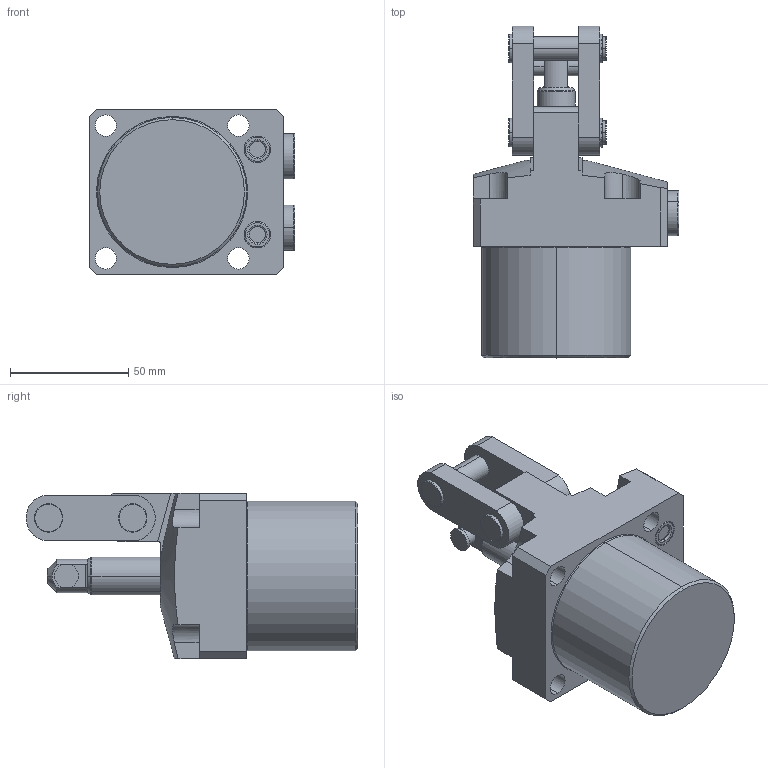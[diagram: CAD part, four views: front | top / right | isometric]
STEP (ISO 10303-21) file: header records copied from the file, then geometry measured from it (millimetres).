
FILE_DESCRIPTION(/* description */ (''),/* implementation_level */ '2;1');
FILE_NAME(/* name */ 'TPC10-L.stp',/* time_stamp */ '2025-01-05T10:28:52+08:00',/* author */ (''),/* organization */ (''),/* preprocessor_version */ 'ST-DEVELOPER v16.7',/* originating_system */ 'SIEMENS PLM Software NX 12.0',/* authorisation */ '');
FILE_SCHEMA (('AUTOMOTIVE_DESIGN { 1 0 10303 214 3 1 1 1 }'));
Length unit declared in the file: millimetre
Products named in the file (5): TPC10-L-01; TPC10-L-02; TPC10-L-03; TPC10-L-04; TPC10-L_stp
Assembly tree (5 placements, depth 2):
  TPC10-L_stp
    TPC10-L-04  x2
    TPC10-L-03
    TPC10-L-02
    TPC10-L-01
Bounding box: 86.8 x 140 x 70 mm (x, y, z)
Volume: 349975.5 mm3; surface area: 50491.8 mm2
Topology: 5 solids, 7 shells, 280 faces, 661 edges, 420 vertices
Faces by surface type: cylinder 116, plane 111, torus 34, cone 19
Entity records: 7798 total; most frequent: CARTESIAN_POINT 1456, DIRECTION 1401, ORIENTED_EDGE 1230, EDGE_CURVE 615, AXIS2_PLACEMENT_3D 558, VERTEX_POINT 392, EDGE_LOOP 301, CIRCLE 294
